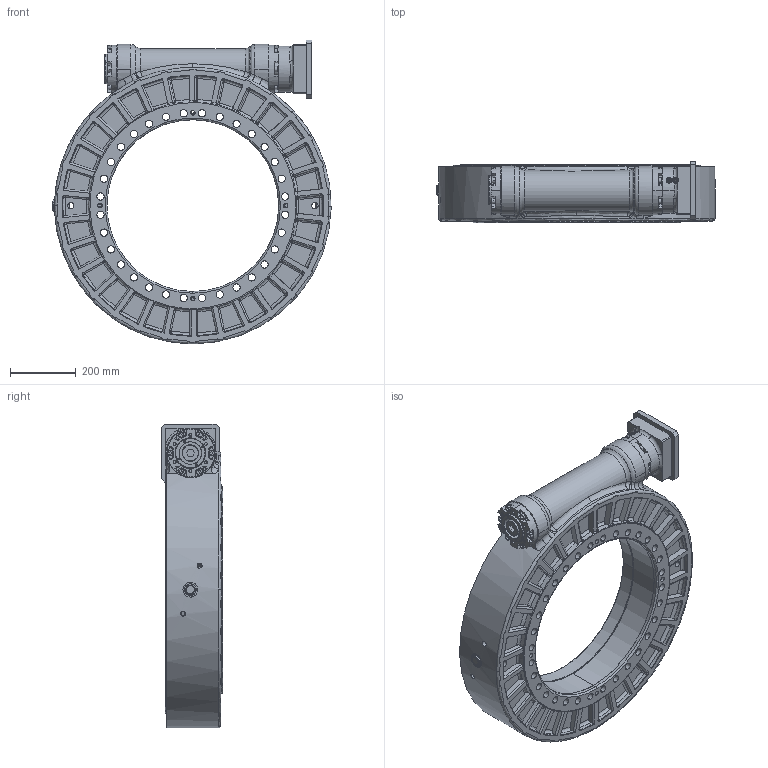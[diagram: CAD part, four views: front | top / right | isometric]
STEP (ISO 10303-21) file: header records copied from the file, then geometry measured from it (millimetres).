
FILE_DESCRIPTION (( 'STEP AP214' ), '1' );
FILE_NAME ('HC415HP-60R-114.3-200-M12-35.STEP', '2022-05-25T07:25:02', ( 'Windows User' ), ( 'P R C' ), 'SwSTEP 2.0', 'SolidWorks 2020', '' );
FILE_SCHEMA (( 'AUTOMOTIVE_DESIGN' ));
Length unit declared in the file: millimetre
Products named in the file (1): HC415HP-60R-114.3-200-M12-35
Bounding box: 845 x 186 x 923 mm (x, y, z)
Surface area: 2669435.4 mm2 (no closed solid volume)
Topology: 0 solids, 70 shells, 1533 faces, 4598 edges, 3062 vertices
Faces by surface type: cylinder 683, plane 487, bspline 287, torus 48, cone 28
Entity records: 100723 total; most frequent: CARTESIAN_POINT 45105, ORIENTED_EDGE 8078, DIRECTION 7460, EDGE_CURVE 4555, VERTEX_POINT 3056, AXIS2_PLACEMENT_3D 2795, VECTOR 1870, LINE 1870
